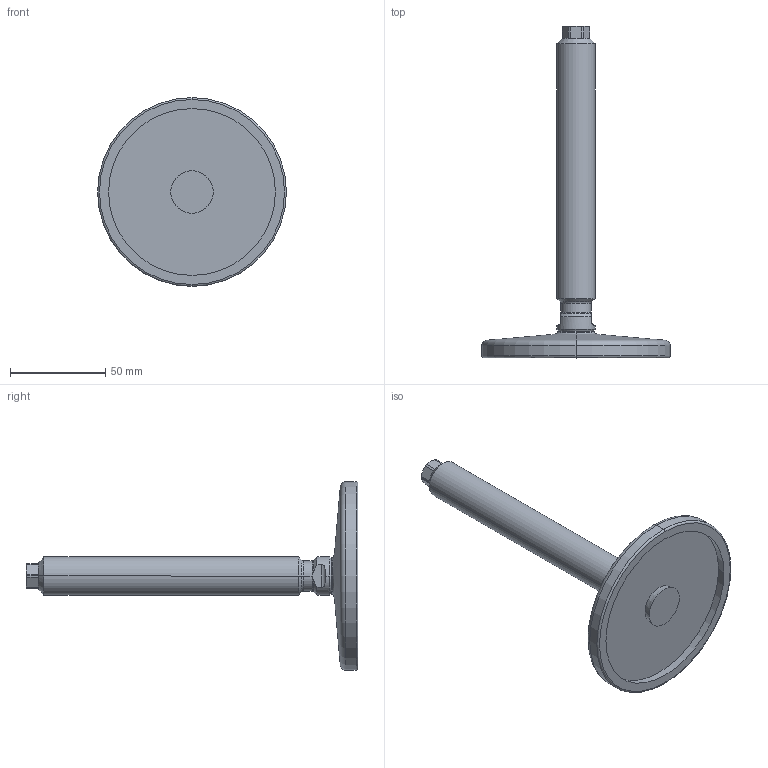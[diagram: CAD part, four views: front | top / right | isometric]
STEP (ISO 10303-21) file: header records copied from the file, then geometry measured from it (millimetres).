
FILE_DESCRIPTION (( 'STEP AP214' ), '1' );
FILE_NAME ('21-100-M20-150-D0-V.step', '2020-10-02T17:36:46', ( '' ), ( '' ), 'SwSTEP 2.0', 'SolidWorks 2019', '' );
FILE_SCHEMA (( 'AUTOMOTIVE_DESIGN' ));
Length unit declared in the file: millimetre
Products named in the file (3): WB21_Fußteller 21^WB21_V_D0-100-R12-B9 (M20); WB21_Spindel_V^WB21_V_M20-150; 21-100-M20-150-D0-V
Assembly tree (2 placements, depth 2):
  21-100-M20-150-D0-V
    WB21_Fußteller 21^WB21_V_D0-100-R12-B9 (M20)
    WB21_Spindel_V^WB21_V_M20-150
Bounding box: 99 x 174.02 x 99 mm (x, y, z)
Volume: 102108.7 mm3; surface area: 30290.8 mm2
Topology: 2 solids, 2 shells, 79 faces, 177 edges, 105 vertices
Faces by surface type: cylinder 23, cone 21, plane 21, torus 10, sphere 4
Entity records: 2434 total; most frequent: CARTESIAN_POINT 518, DIRECTION 406, ORIENTED_EDGE 354, EDGE_CURVE 177, AXIS2_PLACEMENT_3D 173, VERTEX_POINT 105, CIRCLE 89, EDGE_LOOP 82
